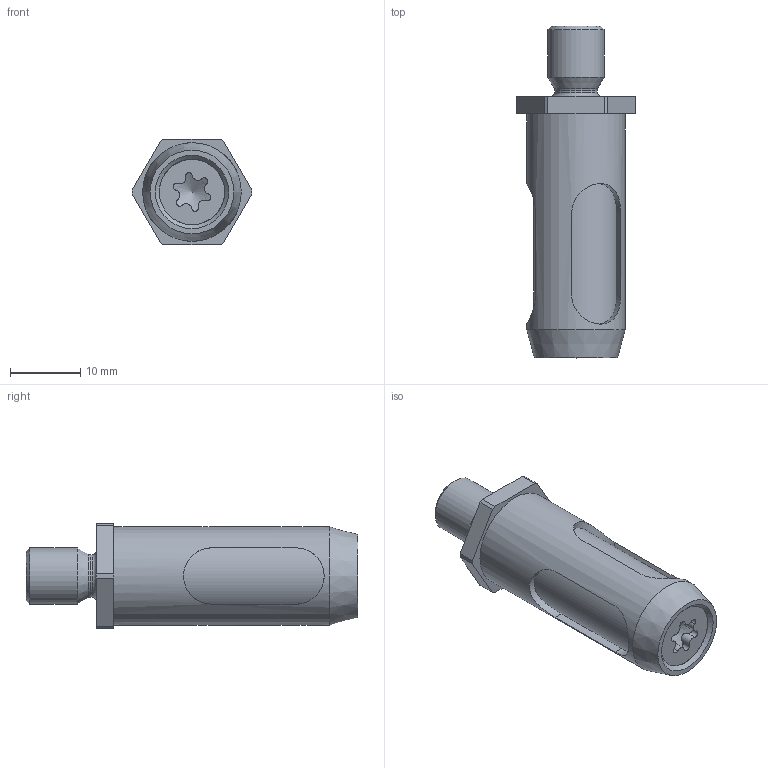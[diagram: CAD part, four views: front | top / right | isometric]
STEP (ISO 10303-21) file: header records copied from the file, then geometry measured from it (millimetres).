
FILE_DESCRIPTION(/* description */ (''),/* implementation_level */ '2;1');
FILE_NAME(/* name */ '\\dc01\daten\CAD\Standard\Daten\3D-Datenbank\GI\GIS\4 - 3D-CAD-Daten GIS 004-020\G-GIS014\G-GIS014_Rev.1.02.stp',/* time_stamp */ '2022-11-29T15:58:29+01:00',/* author */ ('ysplieth'),/* organization */ (''),/* preprocessor_version */ 'ST-DEVELOPER v17',/* originating_system */ 'Autodesk Inventor 2018',/* authorisation */ '');
FILE_SCHEMA (('AUTOMOTIVE_DESIGN { 1 0 10303 214 3 1 1 }'));
Length unit declared in the file: millimetre
Products named in the file (1): Bauteil13
Bounding box: 17 x 47.2 x 15 mm (x, y, z)
Volume: 5022.3 mm3; surface area: 4792.9 mm2
Topology: 1 solids, 4 shells, 77 faces, 213 edges, 147 vertices
Faces by surface type: cylinder 40, plane 23, cone 11, torus 3
Full cylindrical faces by diameter (mm): 4 x2, 4.134 x2, 5.5 x1, 6 x1, 8 x1, 9.3 x1, 9.8 x1, 10 x1, 12 x2, 14 x1
Entity records: 3151 total; most frequent: CARTESIAN_POINT 1032, ORIENTED_EDGE 420, DIRECTION 415, EDGE_CURVE 210, AXIS2_PLACEMENT_3D 164, VERTEX_POINT 147, EDGE_LOOP 91, LINE 87
